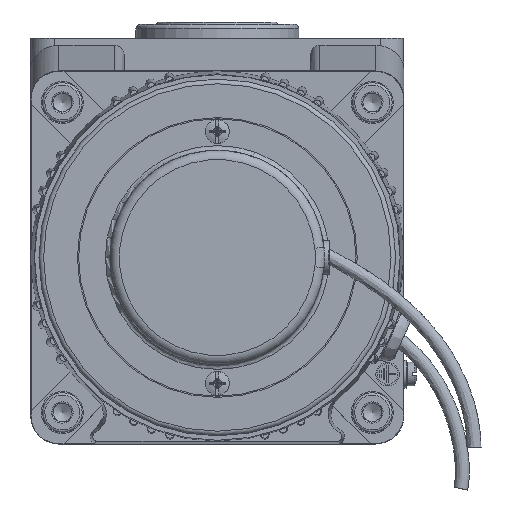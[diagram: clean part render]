
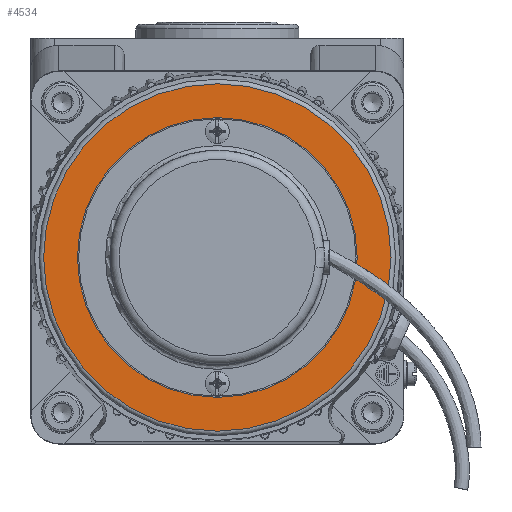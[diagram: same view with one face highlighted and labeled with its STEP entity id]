
A CAD part, left-side view. The second image highlights one B-rep face of the part: STEP entity #4534.
In plain terms, the highlighted planar face has unit normal (-1, 0, 0).
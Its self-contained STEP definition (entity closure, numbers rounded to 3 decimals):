
#3103=PLANE('',#16185);
#4534=ADVANCED_FACE('',(#5390,#5391),#3103,.F.);
#5390=FACE_BOUND('',#6116,.T.);
#5391=FACE_BOUND('',#6117,.T.);
#6116=EDGE_LOOP('',(#8434));
#6117=EDGE_LOOP('',(#8435));
#8434=ORIENTED_EDGE('',*,*,#13523,.F.);
#8435=ORIENTED_EDGE('',*,*,#13505,.T.);
#11831=VERTEX_POINT('',#30109);
#11849=VERTEX_POINT('',#30151);
#13505=EDGE_CURVE('',#11831,#11831,#15174,.T.);
#13523=EDGE_CURVE('',#11849,#11849,#15176,.T.);
#15174=CIRCLE('',#16176,37.25);
#15176=CIRCLE('',#16184,30.);
#16176=AXIS2_PLACEMENT_3D('',#30108,#18267,#18268);
#16184=AXIS2_PLACEMENT_3D('',#30150,#18299,#18300);
#16185=AXIS2_PLACEMENT_3D('',#30152,#18301,#18302);
#18267=DIRECTION('',(-1.,0.,0.));
#18268=DIRECTION('',(0.,0.,-1.));
#18299=DIRECTION('',(-1.,0.,0.));
#18300=DIRECTION('',(0.,0.,1.));
#18301=DIRECTION('',(1.,0.,0.));
#18302=DIRECTION('',(0.,0.,-1.));
#30108=CARTESIAN_POINT('',(-86.,40.,40.));
#30109=CARTESIAN_POINT('',(-86.,40.,2.75));
#30150=CARTESIAN_POINT('',(-86.,40.,40.));
#30151=CARTESIAN_POINT('',(-86.,40.,70.));
#30152=CARTESIAN_POINT('',(-86.,40.,78.25));
